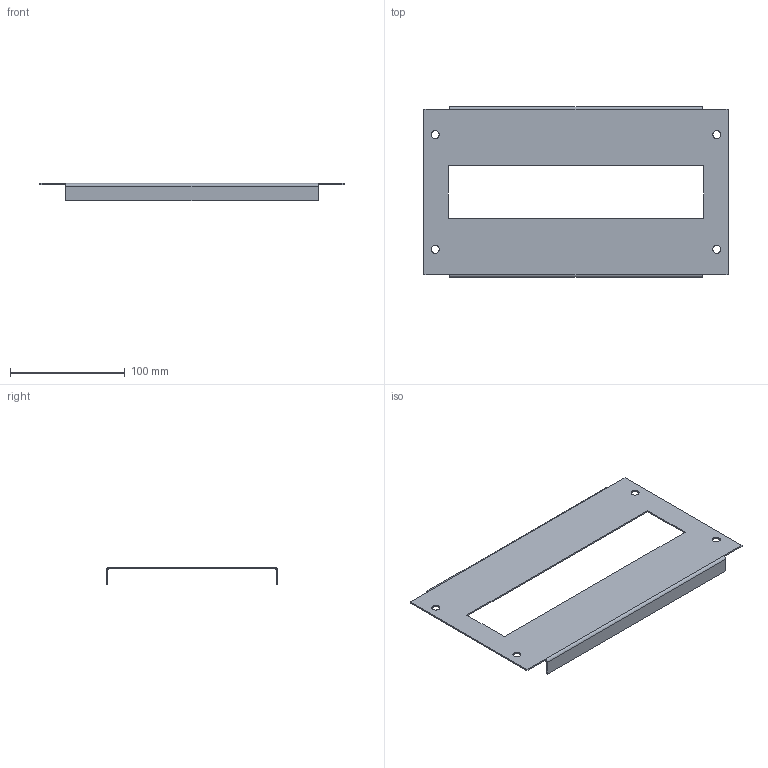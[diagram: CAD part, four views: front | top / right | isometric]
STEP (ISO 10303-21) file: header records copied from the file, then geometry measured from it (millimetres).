
FILE_DESCRIPTION (( 'STEP AP203' ), '1' );
FILE_NAME ('MB 15.30 P Ïàíåëü ìîäóëüíàÿ.STEP', '2022-05-12T11:37:02', ( '' ), ( '' ), 'SwSTEP 2.0', 'SolidWorks 2018', '' );
FILE_SCHEMA (( 'CONFIG_CONTROL_DESIGN' ));
Length unit declared in the file: millimetre
Products named in the file (1): MB 15.30 P Ïàíåëü ìîäóëüíàÿ
Bounding box: 265 x 149 x 15 mm (x, y, z)
Volume: 41521.8 mm3; surface area: 71010.2 mm2
Topology: 1 solids, 1 shells, 38 faces, 92 edges, 56 vertices
Faces by surface type: plane 26, cylinder 12
Entity records: 1189 total; most frequent: DIRECTION 194, CARTESIAN_POINT 187, ORIENTED_EDGE 184, EDGE_CURVE 92, VECTOR 68, LINE 68, AXIS2_PLACEMENT_3D 63, VERTEX_POINT 56
